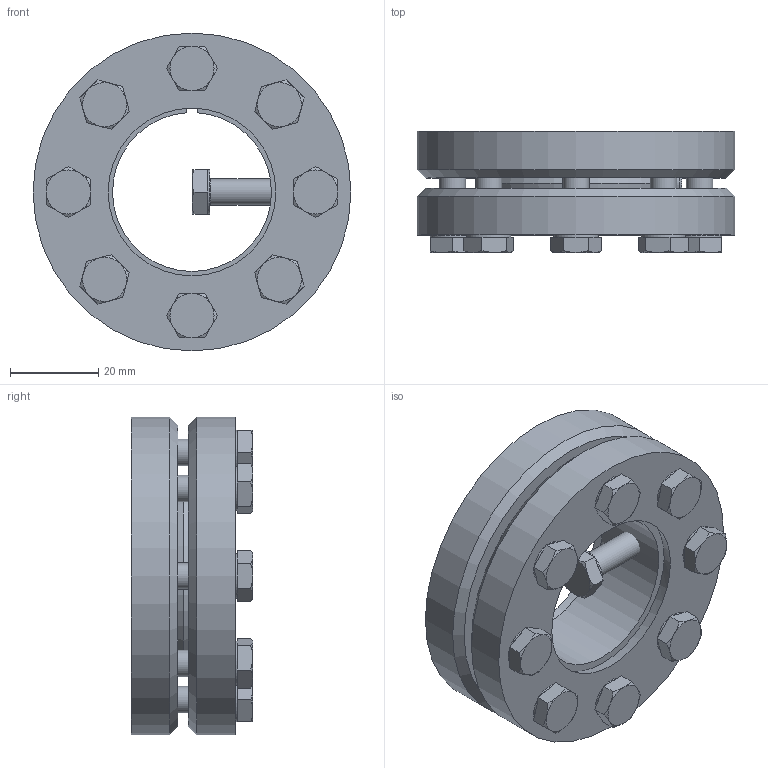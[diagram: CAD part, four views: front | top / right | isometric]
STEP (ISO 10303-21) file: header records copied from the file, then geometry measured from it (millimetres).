
FILE_DESCRIPTION( ( 'Unknown' ), '1' );
FILE_NAME( 'C:/Dokumente und Einstellungen/Sven/Desktop/homepage/cad - homepage/KBS19/KBS 19 - 36 x 72.stp', 'Unknown', ( 'Unknown' ), ( 'Unknown' ), 'XStep 1.0', 'Unknown', ' ' );
FILE_SCHEMA( ( 'automotive_design' ) );
Length unit declared in the file: millimetre
Products named in the file (3): Assem1; KBS 19 - 36 x 72; ISO 4017 - M6 x 20-N
Bounding box: 72 x 27.5 x 72 mm (x, y, z)
Volume: 126555.5 mm3; surface area: 48386.4 mm2
Topology: 11 solids, 11 shells, 303 faces, 706 edges, 434 vertices
Faces by surface type: plane 163, cone 75, cylinder 56, torus 9
Full cylindrical faces by diameter (mm): 6 x41, 10 x9, 72 x4
Entity records: 2208 total; most frequent: CARTESIAN_POINT 341, DIRECTION 326, ORIENTED_EDGE 252, AXIS2_PLACEMENT_3D 142, EDGE_LOOP 127, EDGE_CURVE 126, VERTEX_POINT 93, FACE_OUTER_BOUND 85
